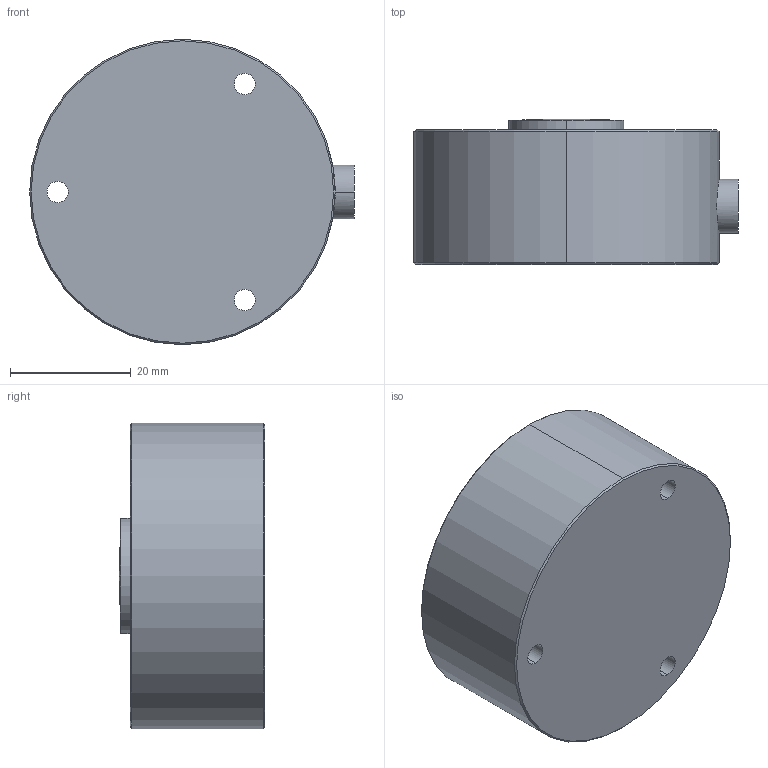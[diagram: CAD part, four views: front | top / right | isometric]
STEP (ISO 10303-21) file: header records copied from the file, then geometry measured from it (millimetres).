
FILE_DESCRIPTION (( 'STEP AP214' ), '1' );
FILE_NAME ('SS1406-30KLB.STEP', '2024-08-19T18:19:05', ( '' ), ( '' ), 'SwSTEP 2.0', 'SolidWorks 2008', '' );
FILE_SCHEMA (( 'AUTOMOTIVE_DESIGN' ));
Length unit declared in the file: inch
Products named in the file (1): SS1406-30KLB
Bounding box: 53.72 x 24.03 x 50.55 mm (x, y, z)
Volume: 43886.2 mm3; surface area: 8660.7 mm2
Topology: 1 solids, 1 shells, 30 faces, 66 edges, 43 vertices
Faces by surface type: cylinder 18, plane 6, cone 4, sphere 2
Entity records: 949 total; most frequent: CARTESIAN_POINT 206, DIRECTION 168, ORIENTED_EDGE 132, AXIS2_PLACEMENT_3D 73, EDGE_CURVE 66, VERTEX_POINT 43, CIRCLE 42, EDGE_LOOP 41
